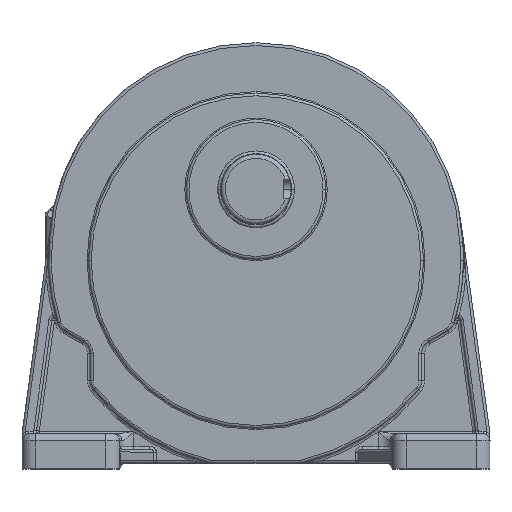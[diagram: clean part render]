
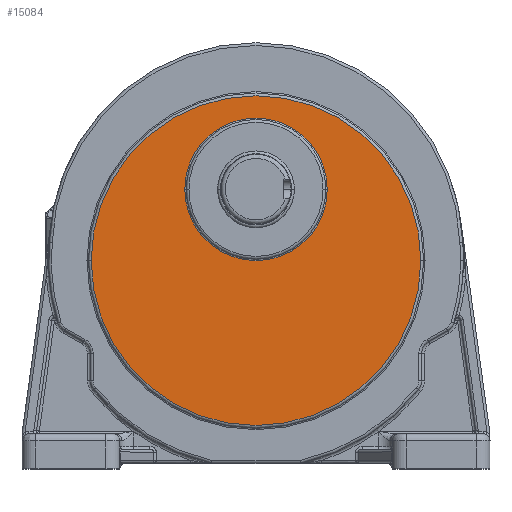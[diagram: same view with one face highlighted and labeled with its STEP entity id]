
A CAD part, top view. The second image highlights one B-rep face of the part: STEP entity #15084.
In plain terms, the highlighted planar face has unit normal (0, 0, 1).
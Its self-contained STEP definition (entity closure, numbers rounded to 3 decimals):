
#759 = EDGE_CURVE ( 'NONE', #11993, #74695, #7502, .T. ) ;
#1162 = CARTESIAN_POINT ( 'NONE',  ( 0., 0., 386.5 ) ) ;
#5681 = DIRECTION ( 'NONE',  ( -1., 0., 0. ) ) ;
#6776 = FACE_BOUND ( 'NONE', #80975, .T. ) ;
#7502 = CIRCLE ( 'NONE', #20356, 51. ) ;
#10107 = CIRCLE ( 'NONE', #61054, 118. ) ;
#11993 = VERTEX_POINT ( 'NONE', #77310 ) ;
#12795 = DIRECTION ( 'NONE',  ( 0., 0., 1. ) ) ;
#14850 = CIRCLE ( 'NONE', #65785, 118. ) ;
#15084 = ADVANCED_FACE ( 'NONE', ( #69202, #6776 ), #34569, .T. ) ;
#15995 = ORIENTED_EDGE ( 'NONE', *, *, #759, .F. ) ;
#16833 = CARTESIAN_POINT ( 'NONE',  ( 51., 51.021, 386.5 ) ) ;
#19833 = EDGE_LOOP ( 'NONE', ( #62727, #44455 ) ) ;
#20356 = AXIS2_PLACEMENT_3D ( 'NONE', #75234, #12795, #40587 ) ;
#26185 = AXIS2_PLACEMENT_3D ( 'NONE', #61171, #88955, #26544 ) ;
#26544 = DIRECTION ( 'NONE',  ( -1., 0., 0. ) ) ;
#27747 = DIRECTION ( 'NONE',  ( 1., 0., 0. ) ) ;
#28978 = DIRECTION ( 'NONE',  ( 0., 0., -1. ) ) ;
#34569 = PLANE ( 'NONE',  #68977 ) ;
#40284 = CARTESIAN_POINT ( 'NONE',  ( 0., 0., 386.5 ) ) ;
#40587 = DIRECTION ( 'NONE',  ( -1., 0., 0. ) ) ;
#44455 = ORIENTED_EDGE ( 'NONE', *, *, #72213, .F. ) ;
#49534 = VERTEX_POINT ( 'NONE', #54705 ) ;
#54705 = CARTESIAN_POINT ( 'NONE',  ( 118., 0., 386.5 ) ) ;
#56774 = DIRECTION ( 'NONE',  ( 1., 0., 0. ) ) ;
#57683 = ORIENTED_EDGE ( 'NONE', *, *, #77394, .T. ) ;
#61054 = AXIS2_PLACEMENT_3D ( 'NONE', #40284, #68104, #5681 ) ;
#61171 = CARTESIAN_POINT ( 'NONE',  ( 0., 51., 386.5 ) ) ;
#62361 = CARTESIAN_POINT ( 'NONE',  ( 0., 0., 386.5 ) ) ;
#62727 = ORIENTED_EDGE ( 'NONE', *, *, #76891, .F. ) ;
#65473 = CIRCLE ( 'NONE', #26185, 51. ) ;
#65785 = AXIS2_PLACEMENT_3D ( 'NONE', #1162, #28978, #56774 ) ;
#68104 = DIRECTION ( 'NONE',  ( 0., 0., -1. ) ) ;
#68977 = AXIS2_PLACEMENT_3D ( 'NONE', #62361, #90161, #27747 ) ;
#69202 = FACE_OUTER_BOUND ( 'NONE', #19833, .T. ) ;
#72213 = EDGE_CURVE ( 'NONE', #49534, #85343, #14850, .T. ) ;
#74695 = VERTEX_POINT ( 'NONE', #16833 ) ;
#75234 = CARTESIAN_POINT ( 'NONE',  ( 0., 51., 386.5 ) ) ;
#76891 = EDGE_CURVE ( 'NONE', #85343, #49534, #10107, .T. ) ;
#77310 = CARTESIAN_POINT ( 'NONE',  ( -51., 50.979, 386.5 ) ) ;
#77394 = EDGE_CURVE ( 'NONE', #11993, #74695, #65473, .T. ) ;
#80975 = EDGE_LOOP ( 'NONE', ( #57683, #15995 ) ) ;
#85343 = VERTEX_POINT ( 'NONE', #86454 ) ;
#86454 = CARTESIAN_POINT ( 'NONE',  ( -118., 0., 386.5 ) ) ;
#88955 = DIRECTION ( 'NONE',  ( 0., 0., -1. ) ) ;
#90161 = DIRECTION ( 'NONE',  ( 0., 0., 1. ) ) ;
